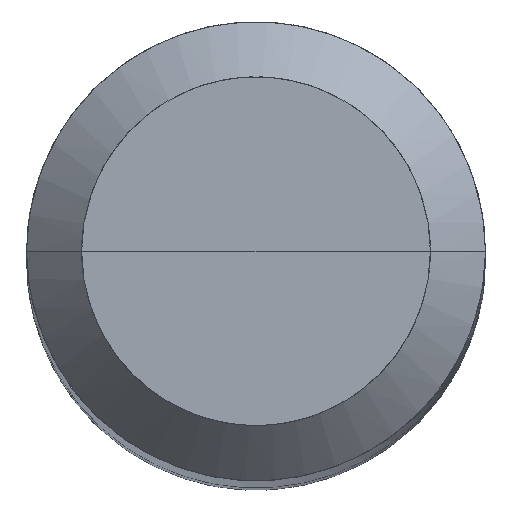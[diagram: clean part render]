
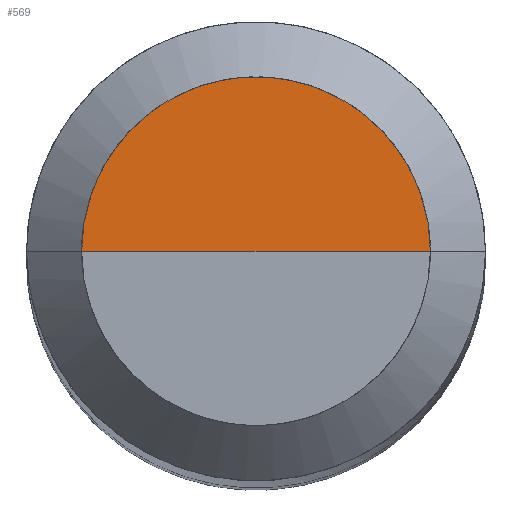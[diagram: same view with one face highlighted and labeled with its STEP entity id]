
A CAD part, top view. The second image highlights one B-rep face of the part: STEP entity #569.
In plain terms, the highlighted free-form (B-spline) face has degree [1, 2] with [2, 5] control points.
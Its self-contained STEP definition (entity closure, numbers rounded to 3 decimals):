
#334=CARTESIAN_POINT('',(1.9,0.0,44.0));
#335=CARTESIAN_POINT('',(1.9,1.9,44.0));
#336=CARTESIAN_POINT('',(0.0,1.9,44.0));
#337=CARTESIAN_POINT('',(-1.9,1.9,44.0));
#338=CARTESIAN_POINT('',(-1.9,0.0,44.0));
#339=CARTESIAN_POINT('',(0.0,0.0,44.0));
#554=(
BOUNDED_SURFACE()
B_SPLINE_SURFACE(1,2,(
(#334,#335,#336,#337,#338),
(#339,#339,#339,#339,#339)
), .UNSPECIFIED.,.F.,.F.,.F.)
B_SPLINE_SURFACE_WITH_KNOTS((2,2),(3,2,3),(
0.0,1.0),(
0.0,0.5,1.0), .UNSPECIFIED.)
GEOMETRIC_REPRESENTATION_ITEM()
RATIONAL_B_SPLINE_SURFACE(((1.0,0.707,1.0,0.707,1.0),
(1.0,0.707,1.0,0.707,1.0)
))
REPRESENTATION_ITEM('')
SURFACE()
);
#555=(
BOUNDED_CURVE()
B_SPLINE_CURVE(2,(#338,#337,#336,#335,#334),.UNSPECIFIED.,.F.,.F.)
B_SPLINE_CURVE_WITH_KNOTS((3,2,3),
(0.0,0.5,1.0),.UNSPECIFIED.)
CURVE()
GEOMETRIC_REPRESENTATION_ITEM()
RATIONAL_B_SPLINE_CURVE((1.0,0.707,1.0,0.707,1.0))
REPRESENTATION_ITEM('')
);
#556=(
BOUNDED_CURVE()
B_SPLINE_CURVE(1,(#334,#339),.UNSPECIFIED.,.F.,.F.)
B_SPLINE_CURVE_WITH_KNOTS((2,2),
(0.0,1.0),.UNSPECIFIED.)
CURVE()
GEOMETRIC_REPRESENTATION_ITEM()
RATIONAL_B_SPLINE_CURVE((1.0,1.0))
REPRESENTATION_ITEM('')
);
#557=(
BOUNDED_CURVE()
B_SPLINE_CURVE(1,(#339,#338),.UNSPECIFIED.,.F.,.F.)
B_SPLINE_CURVE_WITH_KNOTS((2,2),
(0.0,1.0),.UNSPECIFIED.)
CURVE()
GEOMETRIC_REPRESENTATION_ITEM()
RATIONAL_B_SPLINE_CURVE((1.0,1.0))
REPRESENTATION_ITEM('')
);
#558=VERTEX_POINT('',#334);
#559=VERTEX_POINT('',#338);
#560=VERTEX_POINT('',#339);
#561=EDGE_CURVE('',#559,#558,#555,.T.);
#562=EDGE_CURVE('',#558,#560,#556,.T.);
#563=EDGE_CURVE('',#560,#559,#557,.T.);
#564=ORIENTED_EDGE('',*,*,#561,.T.);
#565=ORIENTED_EDGE('',*,*,#562,.T.);
#566=ORIENTED_EDGE('',*,*,#563,.T.);
#567=EDGE_LOOP('',(#564,#565,#566));
#568=FACE_OUTER_BOUND('',#567,.T.);
#569=ADVANCED_FACE('',(#568),#554,.T.);
